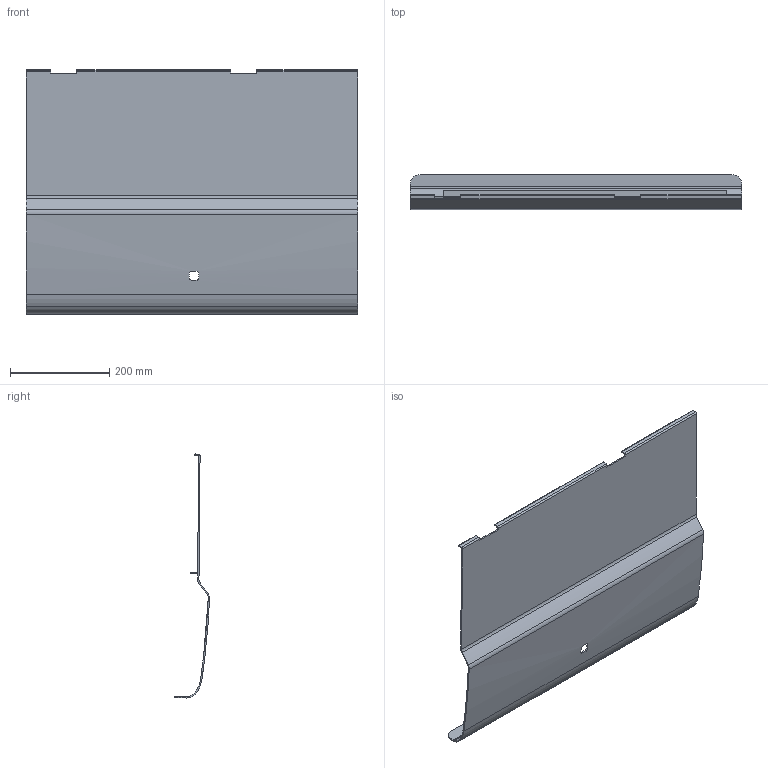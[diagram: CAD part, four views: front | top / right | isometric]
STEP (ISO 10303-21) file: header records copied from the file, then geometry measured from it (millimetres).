
FILE_DESCRIPTION(('CATIA V5 STEP Exchange','CAx-IF Rec.Pracs.--- Model Styling and Organization---1.5--- 2016-08-15','CAx-IF Rec.Pracs.---Supplemental Geometry---1.0---2011-11-01','CAx-IF Rec.Pracs.--- Composite Materials ---3.4---2017-06-13','CAx-IF Rec.Pracs.---Tessellated 3D Geometry---1.0---2015-12-17'),'2;1');
FILE_NAME('C:\Users\pa905\Desktop\AAA\I05802584839.stp','2024-04-30T05:28:35+00:00',('none'),('none'),'CATIA Version 5-6 Release 2022 SP3 HF33','CATIA V5 STEP AP242 v2','none');
FILE_SCHEMA(('AP242_MANAGED_MODEL_BASED_3D_ENGINEERING_MIM_LF {1 0 10303 442 1 1 4}'));
Length unit declared in the file: millimetre
Products named in the file (1): I05802584839
Bounding box: 668 x 71.07 x 491.86 mm (x, y, z)
Volume: 1035473.8 mm3; surface area: 744219.6 mm2
Topology: 1 solids, 1 shells, 59 faces, 176 edges, 120 vertices
Faces by surface type: cylinder 31, plane 28
Entity records: 1928 total; most frequent: CARTESIAN_POINT 377, ORIENTED_EDGE 352, DIRECTION 258, EDGE_CURVE 176, VERTEX_POINT 120, VECTOR 108, LINE 108, AXIS2_PLACEMENT_3D 105
